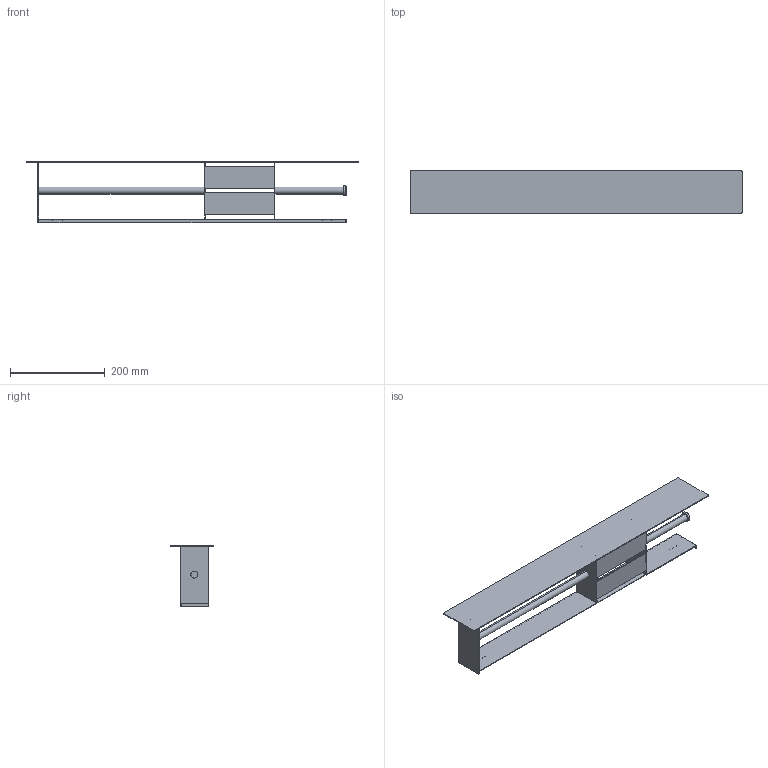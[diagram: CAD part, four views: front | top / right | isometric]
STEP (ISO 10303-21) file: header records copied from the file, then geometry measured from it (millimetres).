
FILE_DESCRIPTION (( 'STEP AP214' ), '1' );
FILE_NAME ('Ñáîðêà ïðàâàÿ.STEP', '2022-12-05T13:47:46', ( '' ), ( '' ), 'SwSTEP 2.0', 'SolidWorks 2021', '' );
FILE_SCHEMA (( 'AUTOMOTIVE_DESIGN' ));
Length unit declared in the file: millimetre
Products named in the file (4): Ïîëêà ñ ïîëîòåíöåäåðæàòåëåì è ò_á ïðàâàÿ; óøêî ÌÀËÎÅ; äíî óøêà ìàëîãî; Ñáîðêà ïðàâàÿ
Assembly tree (5 placements, depth 2):
  Ñáîðêà ïðàâàÿ
    Ïîëêà ñ ïîëîòåíöåäåðæàòåëåì è ò_á ïðàâàÿ
    óøêî ÌÀËÎÅ  x2
    äíî óøêà ìàëîãî  x2
Bounding box: 700 x 90 x 130 mm (x, y, z)
Volume: 336872.6 mm3; surface area: 316234.1 mm2
Topology: 5 solids, 5 shells, 83 faces, 220 edges, 146 vertices
Faces by surface type: plane 61, cylinder 20, cone 2
Entity records: 2176 total; most frequent: CARTESIAN_POINT 357, DIRECTION 346, ORIENTED_EDGE 344, EDGE_CURVE 172, VECTOR 140, LINE 140, VERTEX_POINT 114, AXIS2_PLACEMENT_3D 103
